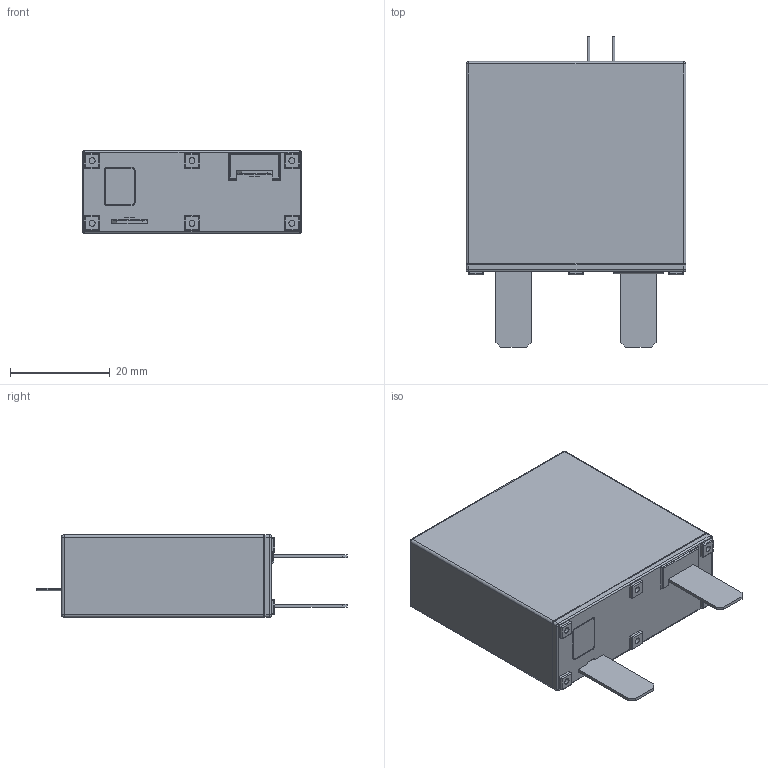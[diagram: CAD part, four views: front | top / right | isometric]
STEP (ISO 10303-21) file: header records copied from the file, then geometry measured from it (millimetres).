
FILE_DESCRIPTION((''),'2;1');
FILE_NAME('TFMOV40K-16-IT-20200620','2020-06-24T',('set'),(''),'PRO/ENGINEER BY PARAMETRIC TECHNOLOGY CORPORATION, 2012310','PRO/ENGINEER BY PARAMETRIC TECHNOLOGY CORPORATION, 2012310','');
FILE_SCHEMA(('CONFIG_CONTROL_DESIGN','SHAPE_APPEARANCE_LAYERS_GROUPS'));
Length unit declared in the file: millimetre
Products named in the file (1): TFMOV40K-16-IT-20200620
Bounding box: 44 x 62.2 x 16.5 mm (x, y, z)
Volume: 30602.2 mm3; surface area: 7264.3 mm2
Topology: 1 solids, 2 shells, 260 faces, 586 edges, 348 vertices
Faces by surface type: cylinder 109, plane 109, sphere 30, torus 8, bspline 4
Entity records: 9202 total; most frequent: CARTESIAN_POINT 1323, DIRECTION 1298, ORIENTED_EDGE 1172, PRESENTATION_STYLE_ASSIGNMENT 600, STYLED_ITEM 587, CURVE_STYLE 586, EDGE_CURVE 586, AXIS2_PLACEMENT_3D 466
